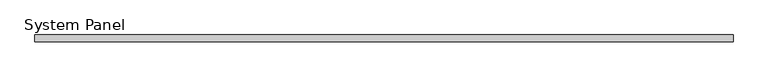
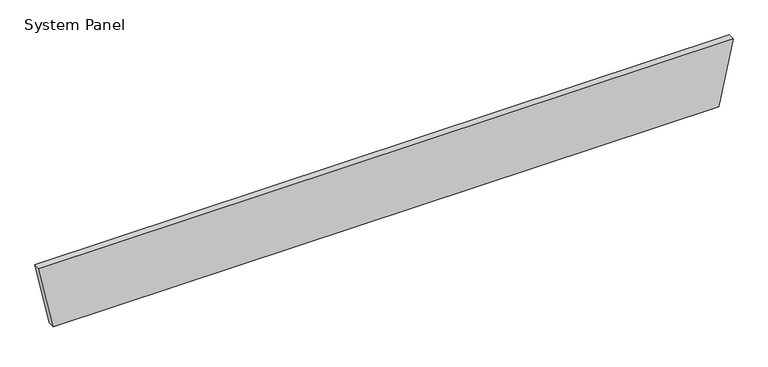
"""IFC4 building model written with IfcOpenShell, lengths in millimetres: plate geometry, System Panel : Equitilt_125mm_Plain_Surfmist."""

from ifc_helpers import new_model, si_unit, frame, origin, place, context, project, spatial, polyline, outline, extrude, source, transform, mapped, element, save


def system_panel_fcf58fec(model_context):
    return source(origin(), model_context, "Body", "SweptSolid", [
        extrude(outline(polyline([(0.0, -6000.0), (0.0, 6000.0), (1200.0, 6260.8716619), (1200.0, -6260.8716619), (0.0, -6000.0)])), frame((0.0, -125.0, 0.0), z_axis=(0.0, 1.0, 0.0), x_axis=(0.0, 0.0, 1.0)), (0.0, 0.0, 1.0), 125.0),
    ])


if __name__ == "__main__":
    model = new_model("IFC4")
    model_context = context("Model", 3, world=origin())
    ifc_project = project(units=[si_unit("LENGTHUNIT", "METRE", prefix="MILLI")], contexts=[model_context])
    site = spatial("IfcSite", under=ifc_project)
    building = spatial("IfcBuilding", under=site)
    placement = place(None, origin())
    system_panel_shape = system_panel_fcf58fec(model_context)
    element("IfcPlate", 1, ObjectType="System Panel : Equitilt_125mm_Plain_Surfmist", at=placement, inside=building, context=model_context, shape_type="MappedRepresentation", body=[
        mapped(system_panel_shape, transform((0.0, 0.0, 0.0), x_axis=(1.0, 0.0, 0.0), y_axis=(0.0, 1.0, 0.0), z_axis=(0.0, 0.0, 1.0))),
    ])
    save(model, "model.ifc")
